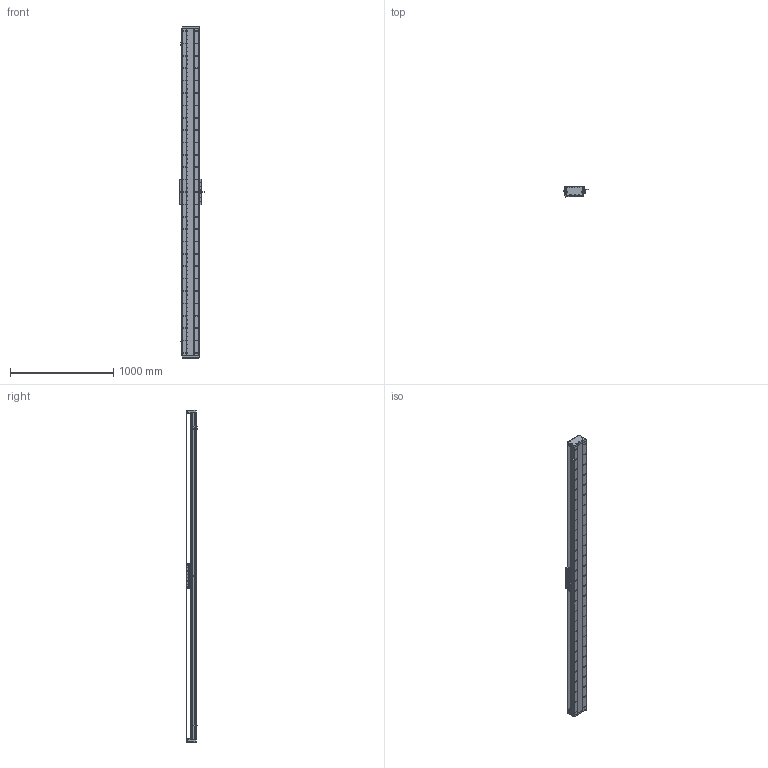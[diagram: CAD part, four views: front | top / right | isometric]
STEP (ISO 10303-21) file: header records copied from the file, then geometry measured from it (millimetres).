
FILE_DESCRIPTION (( 'STEP AP203' ), '1' );
FILE_NAME ('DA-C165-C3-T2880-C010-0.2 直线电机.STEP', '2023-06-13T08:57:48', ( '微软用户' ), ( '微软中国' ), 'SwSTEP 2.0', 'SolidWorks 2019', '' );
FILE_SCHEMA (( 'CONFIG_CONTROL_DESIGN' ));
Length unit declared in the file: millimetre
Products named in the file (18): IU-CU165-L 菁釱絳寢; 复件 DA165-GD-1860-002-00 钢带盖板^复件 CU165钢带组件_DA-C165-C3-T-C010-0.2-N 直线电机; 复件 六角薄螺母 M3^DA-C165-C3-T-C010-0.2-N 直线电机_GB_FASTENER_NUT_STNAB M3-C; 复件 XD-U-02L 磁栅尺^DA-C165-C3-T-C010-0.2-N 直线电机_T; DA-C165-C3-T2880-C010-0.2 眻盄萇儂; 复件 DA95-HXJ-00 缓冲橡胶^DA-C165-C3-T-C010-0.2-N 直线电机; 葩璃 CKM01-W075-TRL^DA-C165-C3-T-C010-0.2-N 眻盄萇儂; 复件 DA165-GYP-00 光电感应片^DA-C165-C3-T-C010-0.2-N 直线电机; 复件 DA165-GDLK-00 钢带拉块^复件 CU165钢带组件_DA-C165-C3-T-C010-0.2-N 直线电机; 葩璃 PM-T45^DA-C165-C3-T-C010-0.2-N 眻盄萇儂; 复件 CU165 底座^IU-CU165-L 底座导轨_L3180; 葩璃 CKM03-W075-C1C2-TP-3.0^DA-C165-C3-T-C010-0.2-N 眻盄萇儂; 珨极趙賑雄怢啣C3-wf; 复件 DA165-GDYK-00 钢带压块^复件 CU165钢带组件_DA-C165-C3-T-C010-0.2-N 直线电机; 复件 DA165-GD-DG-H-00 端盖^复件 CU165钢带组件_DA-C165-C3-T-C010-0.2-N 直线电机; 葩璃 DA95-GT-T-00^IU-CU165-L 菁釱絳寢_T; 复件 DMA-010-0.2 读数头^DA-C165-C3-T-C010-0.2-N 直线电机; 复件 CU165钢带组件^DA-C165-C3-T-C010-0.2-N 直线电机
Assembly tree (35 placements, depth 3):
  DA-C165-C3-T2880-C010-0.2 眻盄萇儂
    IU-CU165-L 菁釱絳寢
      复件 CU165 底座^IU-CU165-L 底座导轨_L3180
      葩璃 DA95-GT-T-00^IU-CU165-L 菁釱絳寢_T  x4
    复件 XD-U-02L 磁栅尺^DA-C165-C3-T-C010-0.2-N 直线电机_T
    葩璃 PM-T45^DA-C165-C3-T-C010-0.2-N 眻盄萇儂  x3
    葩璃 CKM01-W075-TRL^DA-C165-C3-T-C010-0.2-N 眻盄萇儂
    复件 CU165钢带组件^DA-C165-C3-T-C010-0.2-N 直线电机
      复件 DA165-GD-DG-H-00 端盖^复件 CU165钢带组件_DA-C165-C3-T-C010-0.2-N 直线电机  x2
      复件 DA165-GDYK-00 钢带压块^复件 CU165钢带组件_DA-C165-C3-T-C010-0.2-N 直线电机  x2
      复件 DA165-GD-1860-002-00 钢带盖板^复件 CU165钢带组件_DA-C165-C3-T-C010-0.2-N 直线电机
      复件 DA165-GDLK-00 钢带拉块^复件 CU165钢带组件_DA-C165-C3-T-C010-0.2-N 直线电机  x2
    复件 DA95-HXJ-00 缓冲橡胶^DA-C165-C3-T-C010-0.2-N 直线电机  x4
    复件 DA165-GYP-00 光电感应片^DA-C165-C3-T-C010-0.2-N 直线电机
    复件 DMA-010-0.2 读数头^DA-C165-C3-T-C010-0.2-N 直线电机
    葩璃 CKM03-W075-C1C2-TP-3.0^DA-C165-C3-T-C010-0.2-N 眻盄萇儂
    复件 六角薄螺母 M3^DA-C165-C3-T-C010-0.2-N 直线电机_GB_FASTENER_NUT_STNAB M3-C  x8
    珨极趙賑雄怢啣C3-wf
Bounding box: 233 x 111.45 x 3220 mm (x, y, z)
Volume: 17963983 mm3; surface area: 5395576.2 mm2
Topology: 72 solids, 122 shells, 4662 faces, 13617 edges, 8650 vertices
Faces by surface type: cylinder 2800, plane 1236, cone 576, torus 46, sphere 4
Entity records: 158983 total; most frequent: CARTESIAN_POINT 44403, ORIENTED_EDGE 23986, DIRECTION 23081, EDGE_CURVE 11993, AXIS2_PLACEMENT_3D 8894, VERTEX_POINT 7838, EDGE_LOOP 5525, VECTOR 5293
